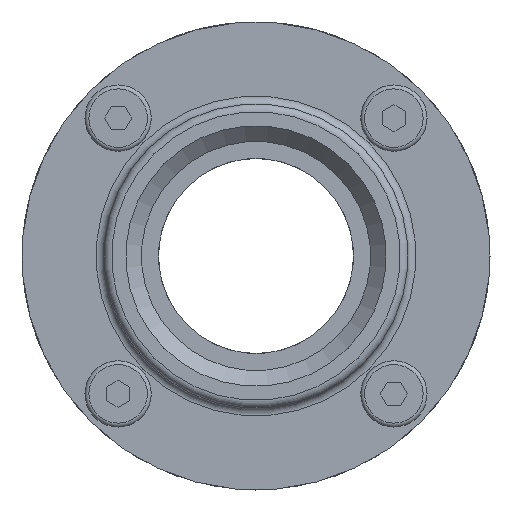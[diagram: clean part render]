
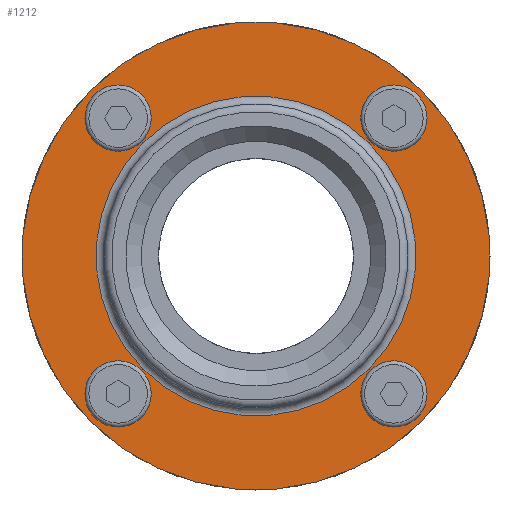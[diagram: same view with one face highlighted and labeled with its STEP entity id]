
A CAD part, front view. The second image highlights one B-rep face of the part: STEP entity #1212.
In plain terms, the highlighted planar face has unit normal (0, -1, 0).
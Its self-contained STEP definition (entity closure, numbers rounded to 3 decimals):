
#847=FACE_BOUND('',#1805,.T.);
#848=FACE_BOUND('',#1806,.T.);
#849=FACE_BOUND('',#1807,.T.);
#850=FACE_BOUND('',#1808,.T.);
#851=FACE_BOUND('',#1809,.T.);
#852=FACE_BOUND('',#1810,.T.);
#1212=ADVANCED_FACE('',(#847,#848,#849,#850,#851,#852),#1453,.F.);
#1453=PLANE('',#4224);
#1805=EDGE_LOOP('',(#2391));
#1806=EDGE_LOOP('',(#2392));
#1807=EDGE_LOOP('',(#2393));
#1808=EDGE_LOOP('',(#2394));
#1809=EDGE_LOOP('',(#2395));
#1810=EDGE_LOOP('',(#2396));
#2391=ORIENTED_EDGE('',*,*,#3436,.F.);
#2392=ORIENTED_EDGE('',*,*,#3437,.F.);
#2393=ORIENTED_EDGE('',*,*,#3438,.F.);
#2394=ORIENTED_EDGE('',*,*,#3439,.F.);
#2395=ORIENTED_EDGE('',*,*,#3440,.T.);
#2396=ORIENTED_EDGE('',*,*,#3408,.T.);
#3044=VERTEX_POINT('',#6139);
#3068=VERTEX_POINT('',#6281);
#3069=VERTEX_POINT('',#6283);
#3070=VERTEX_POINT('',#6285);
#3071=VERTEX_POINT('',#6287);
#3072=VERTEX_POINT('',#6289);
#3408=EDGE_CURVE('',#3044,#3044,#3865,.T.);
#3436=EDGE_CURVE('',#3068,#3068,#3889,.T.);
#3437=EDGE_CURVE('',#3069,#3069,#3890,.T.);
#3438=EDGE_CURVE('',#3070,#3070,#3891,.T.);
#3439=EDGE_CURVE('',#3071,#3071,#3892,.T.);
#3440=EDGE_CURVE('',#3072,#3072,#3893,.T.);
#3865=CIRCLE('',#4177,30.);
#3889=CIRCLE('',#4219,2.6);
#3890=CIRCLE('',#4220,2.6);
#3891=CIRCLE('',#4221,2.6);
#3892=CIRCLE('',#4222,2.6);
#3893=CIRCLE('',#4223,20.5);
#4177=AXIS2_PLACEMENT_3D('',#6138,#4891,#4892);
#4219=AXIS2_PLACEMENT_3D('',#6280,#4975,#4976);
#4220=AXIS2_PLACEMENT_3D('',#6282,#4977,#4978);
#4221=AXIS2_PLACEMENT_3D('',#6284,#4979,#4980);
#4222=AXIS2_PLACEMENT_3D('',#6286,#4981,#4982);
#4223=AXIS2_PLACEMENT_3D('',#6288,#4983,#4984);
#4224=AXIS2_PLACEMENT_3D('',#6290,#4985,#4986);
#4891=DIRECTION('',(0.,-1.,0.));
#4892=DIRECTION('',(-0.707,0.,0.707));
#4975=DIRECTION('',(0.,-1.,0.));
#4976=DIRECTION('',(-0.707,0.,0.707));
#4977=DIRECTION('',(0.,-1.,0.));
#4978=DIRECTION('',(-0.707,0.,0.707));
#4979=DIRECTION('',(0.,-1.,0.));
#4980=DIRECTION('',(-0.707,0.,0.707));
#4981=DIRECTION('',(0.,-1.,0.));
#4982=DIRECTION('',(-0.707,0.,0.707));
#4983=DIRECTION('',(0.,1.,0.));
#4984=DIRECTION('',(-0.707,0.,0.707));
#4985=DIRECTION('',(0.,1.,0.));
#4986=DIRECTION('',(-0.707,0.,0.707));
#6138=CARTESIAN_POINT('',(0.,-44.5,0.));
#6139=CARTESIAN_POINT('',(-21.213,-44.5,21.213));
#6280=CARTESIAN_POINT('',(-17.678,-44.5,-17.678));
#6281=CARTESIAN_POINT('',(-19.516,-44.5,-15.839));
#6282=CARTESIAN_POINT('',(17.678,-44.5,-17.678));
#6283=CARTESIAN_POINT('',(15.839,-44.5,-15.839));
#6284=CARTESIAN_POINT('',(17.678,-44.5,17.678));
#6285=CARTESIAN_POINT('',(15.839,-44.5,19.516));
#6286=CARTESIAN_POINT('',(-17.678,-44.5,17.678));
#6287=CARTESIAN_POINT('',(-19.516,-44.5,19.516));
#6288=CARTESIAN_POINT('',(0.,-44.5,0.));
#6289=CARTESIAN_POINT('',(-14.496,-44.5,14.496));
#6290=CARTESIAN_POINT('',(0.,-44.5,0.));
